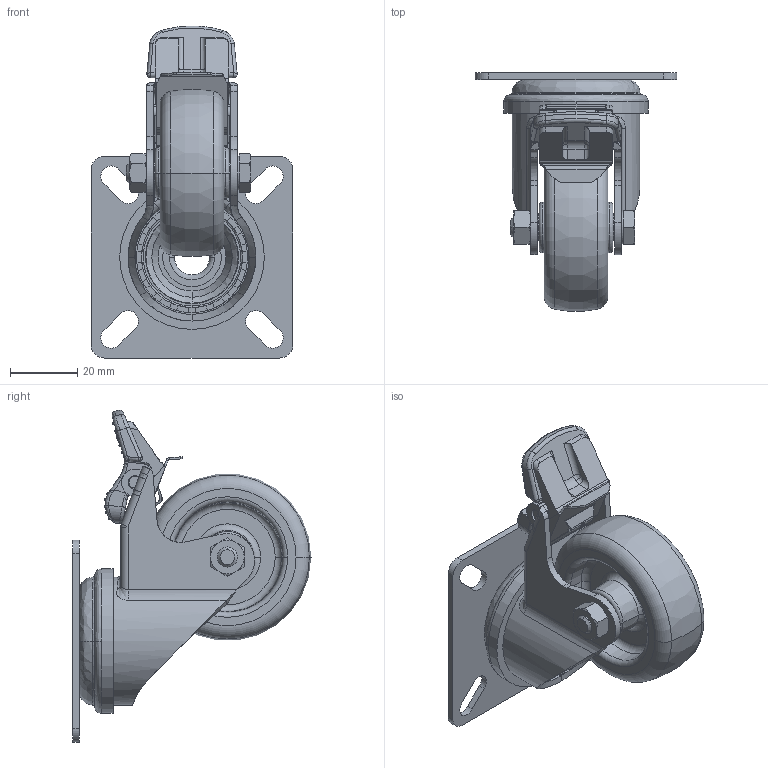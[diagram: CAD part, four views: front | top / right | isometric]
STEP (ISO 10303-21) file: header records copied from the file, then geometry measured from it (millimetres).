
FILE_DESCRIPTION (( 'STEP AP214' ), '1' );
FILE_NAME ('LPXA-TPA_50G-FI_753564-214.step', '2012-10-13T09:40:27', ( 'Matthias Senn' ), ( 'Blickle Räder+Rollen' ), 'SwSTEP 2.0', 'SolidWorks 2010', '' );
FILE_SCHEMA (( 'AUTOMOTIVE_DESIGN' ));
Length unit declared in the file: millimetre
Products named in the file (4): TPA-G_G15_TPA_50_8G; GH-LPXA_050-FI_G15; AM_LRXA_08x23_G_G15; LPXA-TPA_50G-FI_753564-214
Assembly tree (3 placements, depth 2):
  LPXA-TPA_50G-FI_753564-214
    TPA-G_G15_TPA_50_8G
    GH-LPXA_050-FI_G15
    AM_LRXA_08x23_G_G15
Bounding box: 60 x 70.92 x 98.73 mm (x, y, z)
Volume: 59862.1 mm3; surface area: 32080.6 mm2
Topology: 3 solids, 3 shells, 1359 faces, 3677 edges, 2366 vertices
Faces by surface type: plane 662, bspline 381, cylinder 247, cone 47, torus 22
Entity records: 80311 total; most frequent: CARTESIAN_POINT 34755, ORIENTED_EDGE 7286, DIRECTION 4811, EDGE_CURVE 3643, VERTEX_POINT 2366, VECTOR 1881, LINE 1881, AXIS2_PLACEMENT_3D 1465
